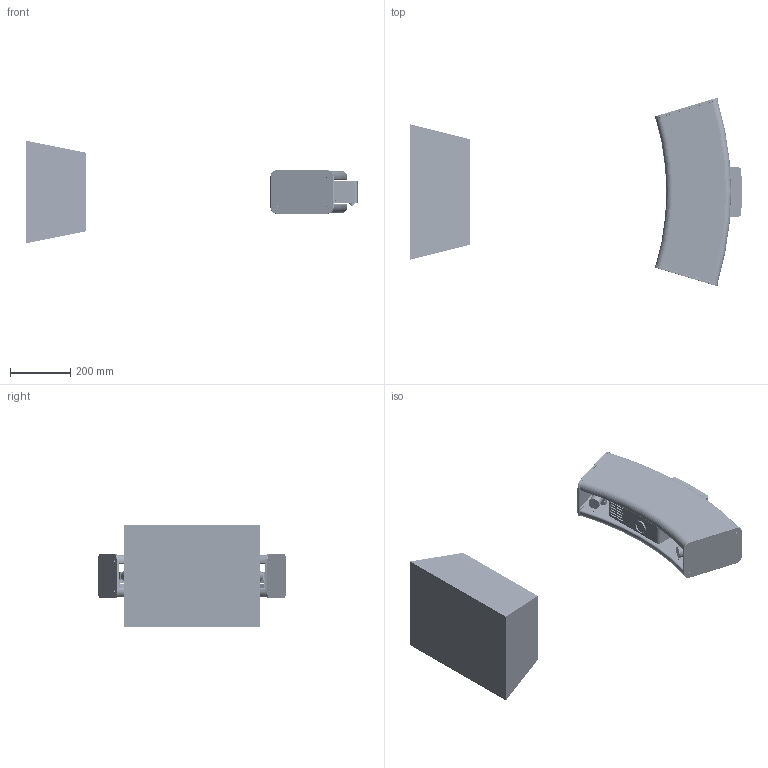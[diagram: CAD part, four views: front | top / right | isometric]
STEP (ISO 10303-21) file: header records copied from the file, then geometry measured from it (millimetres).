
FILE_DESCRIPTION((''),'2;1');
FILE_NAME('0000433488_ASM','2021-12-09T12:02:09',('pdmservice'),(''),'CREO PARAMETRIC BY PTC INC, 2018420','CREO PARAMETRIC BY PTC INC, 2018420','');
FILE_SCHEMA(('AUTOMOTIVE_DESIGN { 1 0 10303 214 1 1 1 1 }'));
Products named in the file (35): 0000427157_PRT; 0000433620_PRT; 0000427203_PRT; 0000427200_PRT; 0000427202_PRT; 0000427204_ASM; 0000427167_PRT; 0000427170_PRT; 0000427172_PRT; 0000427174_PRT; 0000427178_PRT; 0000427180_PRT; 0000427151_PRT; 0000427153_PRT; 0000427861_PRT; 0000427867_PRT; 0000427270_PRT; 0000427237_PRT; 0000427951_PRT; 0000427888_PRT; 0466016_PRT; 0000145117_PRT; 0000135227_PRT; 0000194705_PRT; 0000013120_PRT; 0000026021_PRT; 0000012527_PRT; 0000013114_PRT; 0000427186_PRT; 0000013143_PRT; 0000024246_PRT; 0000024291_PRT; 0000013146_PRT; 0000433294_PRT; 0000433488_ASM
Assembly tree (85 placements, depth 3):
  0000433488_ASM
    0000427157_PRT
    0000433620_PRT
    0000427204_ASM
      0000427203_PRT
      0000427200_PRT  x2
      0000427202_PRT
    0000427167_PRT
    0000427170_PRT
    0000427172_PRT
    0000427174_PRT
    0000427178_PRT  x2
    0000427180_PRT  x2
    0000427151_PRT  x2
    0000427153_PRT
    0000427861_PRT  x2
    0000427867_PRT
    0000427270_PRT
    0000427237_PRT
    0000427951_PRT  x2
    0000427888_PRT  x4
    0466016_PRT  x4
    0000145117_PRT  x4
    0000135227_PRT  x2
    0000194705_PRT  x2
    0000013120_PRT  x8
    0000026021_PRT  x6
    0000012527_PRT  x6
    0000013114_PRT  x6
    0000427186_PRT  x5
    0000013143_PRT  x4
    0000024246_PRT  x4
    0000024291_PRT  x2
    0000013146_PRT  x2
    0000433294_PRT
Bounding box: 1101.95 x 626.21 x 340 mm (x, y, z)
Volume: 28985502.9 mm3; surface area: 2247475.6 mm2
Topology: 84 solids, 144 shells, 7273 faces, 18536 edges, 11725 vertices
Faces by surface type: plane 3002, cylinder 2427, cone 784, torus 418, bspline 342, extrusion 236, sphere 60, revolution 4
Entity records: 206648 total; most frequent: CARTESIAN_POINT 44093, ORIENTED_EDGE 19592, DIRECTION 19585, PRESENTATION_STYLE_ASSIGNMENT 11174, EDGE_CURVE 9874, STYLED_ITEM 9006, CURVE_STYLE 8719, AXIS2_PLACEMENT_3D 7053
